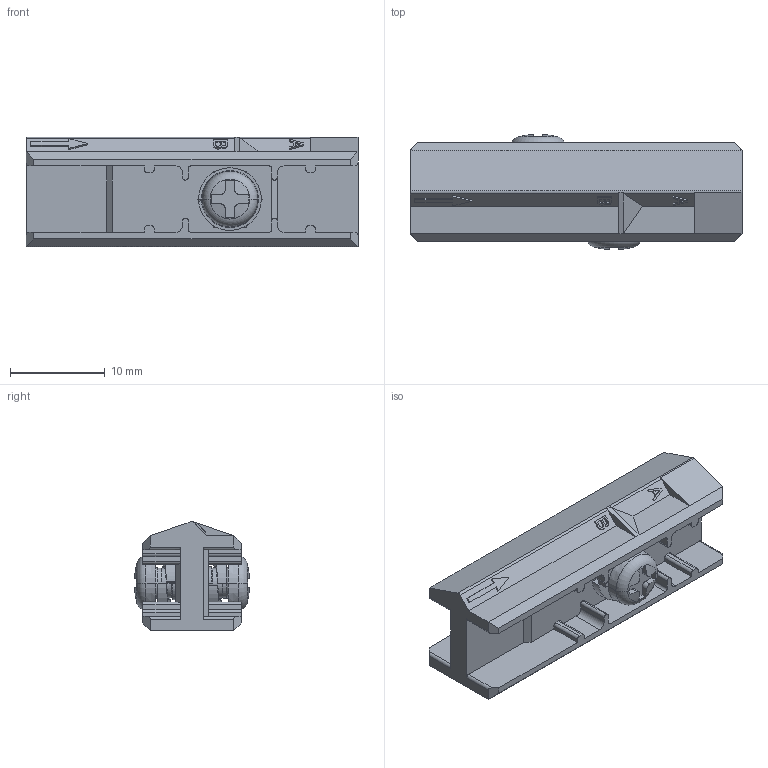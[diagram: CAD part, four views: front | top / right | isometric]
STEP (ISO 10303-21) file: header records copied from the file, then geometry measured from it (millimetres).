
FILE_DESCRIPTION(('Creo Elements/Direct Modeling STEP Export'),'2;1');
FILE_NAME('H08-0011-CL913_QW-J2.stp','2013-07-24T11:50:42',(''),(''),'Creo Elements/Direct Modeling STEP processor for AP214 (Solid Model)','Creo Elements/Direct Modeling 18.1B 29-Sep-2012 (C) Parametric Technology GmbH','');
FILE_SCHEMA(('AUTOMOTIVE_DESIGN { 1 0 10303 214 1 1 1 1 }'));
Length unit declared in the file: millimetre
Products named in the file (8): Ｍ3.5_ねじ_1; Ｍ3.5_ねじ_2; QW-J2本体_ゲージ付; M3.5_ナット_1; M3.5_バネ座金_1; M3.5_バネ座金_2; M3.5_ナット_2; QW-J2
Assembly tree (7 placements, depth 2):
  QW-J2
    M3.5_ナット_2
    M3.5_バネ座金_2
    M3.5_バネ座金_1
    M3.5_ナット_1
    QW-J2本体_ゲージ付
    Ｍ3.5_ねじ_2
    Ｍ3.5_ねじ_1
Bounding box: 35 x 12.09 x 11.5 mm (x, y, z)
Volume: 2152.1 mm3; surface area: 2875.4 mm2
Topology: 7 solids, 13 shells, 427 faces, 1105 edges, 711 vertices
Faces by surface type: plane 245, cylinder 115, cone 41, torus 12, bspline 10, sphere 4
Entity records: 14690 total; most frequent: CARTESIAN_POINT 4212, ORIENTED_EDGE 2224, DIRECTION 2006, EDGE_CURVE 1105, VECTOR 714, LINE 714, VERTEX_POINT 711, AXIS2_PLACEMENT_3D 646
